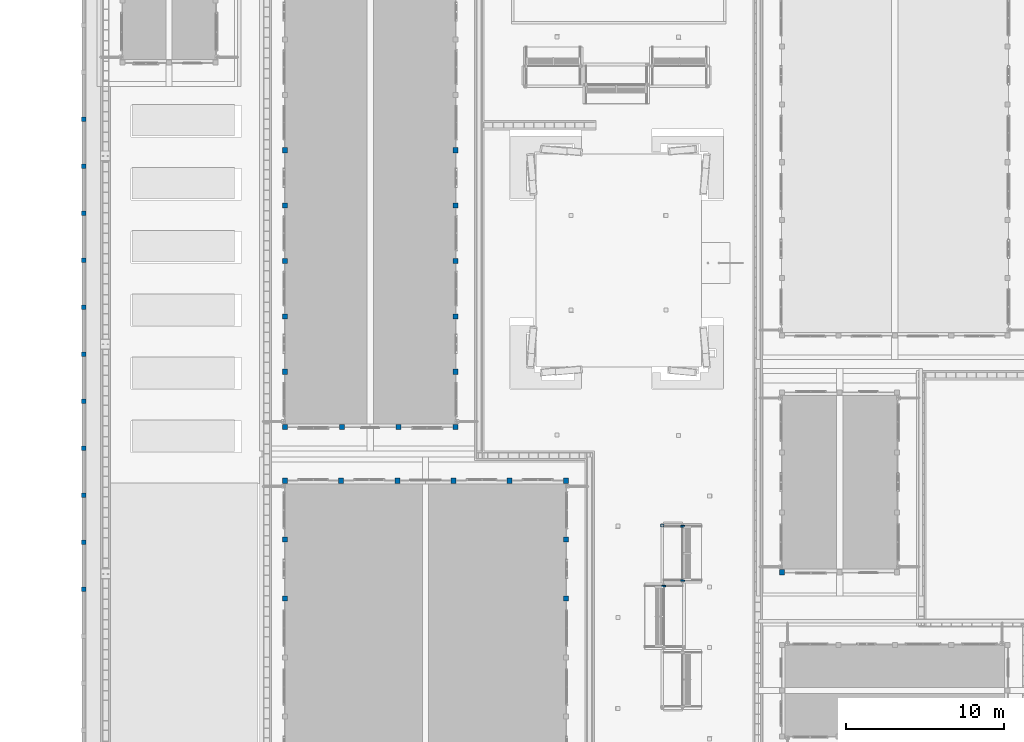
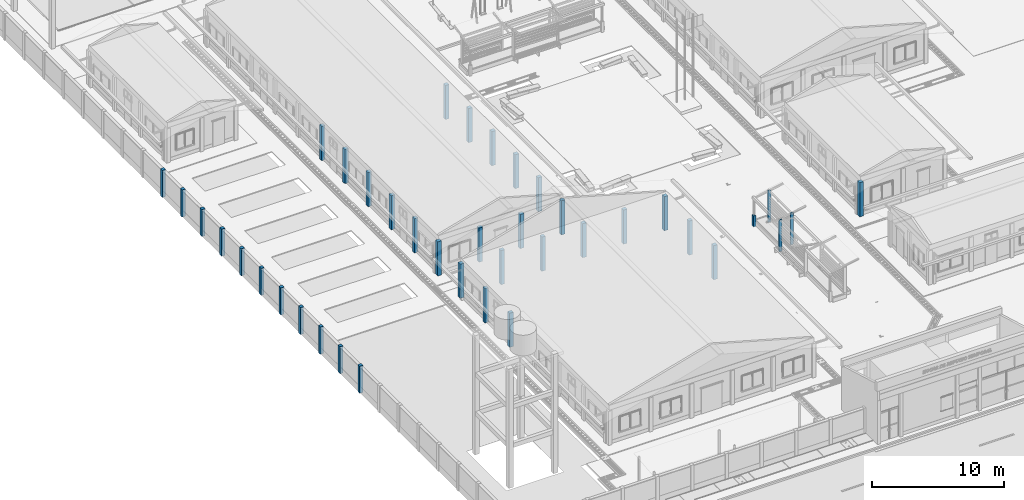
# One storey, part 3 of 151: 45 columns.
"""IFC2X3 building model written with IfcOpenShell, lengths in metres."""

from ifc_helpers import new_model, si_unit, frame, origin, origin_with_axes, place, context, subcontext, project, spatial, faceted_brep, element, save


model = new_model("IFC2X3")

# Units and contexts
model_context = context("Model", 3, precision=1e-05, world=origin_with_axes())
body_context = subcontext(model_context, "Body", "Model", "MODEL_VIEW")
ifc_project = project(units=[si_unit("LENGTHUNIT", "METRE"), si_unit("AREAUNIT", "SQUARE_METRE"), si_unit("VOLUMEUNIT", "CUBIC_METRE"), si_unit("PLANEANGLEUNIT", "RADIAN")], contexts=[model_context])

# Site, building, storey
site_placement = place(None, origin_with_axes())
site = spatial("IfcSite", under=ifc_project, at=site_placement, Name="Predio Los Mangos - Morales, San Martín", CompositionType="ELEMENT")
building_placement = place(site_placement, origin())
building = spatial("IfcBuilding", under=site, at=building_placement, Name="Hogar de Refugio Temporal", CompositionType="ELEMENT")
storey_placement = place(building_placement, origin())
storey = spatial("IfcBuildingStorey", under=building, at=storey_placement, Name="NIVEL 1 (NPT +0.00)", CompositionType="ELEMENT", Elevation=0.0)

# Columns
column_1_placement = place(storey_placement, origin())
element("IfcColumn", 1, at=column_1_placement, inside=storey, Name="E-01_col", ObjectType="Columna", context=body_context, shape_type="Brep", body=[
    faceted_brep([(13.64, 48.54, 0.15), (13.64, 48.86, 0.15), (13.96, 48.86, 0.15), (13.96, 48.54, 0.15), (13.64, 48.54, 3.3), (13.96, 48.54, 3.3), (13.96, 48.86, 3.3), (13.64, 48.86, 3.3)], [[[0, 1, 2, 3]], [[4, 5, 6, 7]], [[0, 3, 5, 4]], [[3, 2, 6, 5]], [[2, 1, 7, 6]], [[1, 0, 4, 7]]]),
])
column_2_placement = place(storey_placement, origin())
element("IfcColumn", 2, at=column_2_placement, inside=storey, Name="E-01_col", ObjectType="Columna", context=body_context, shape_type="Brep", body=[
    faceted_brep([(17.2, 48.54, 0.15), (17.2, 48.86, 0.15), (17.52, 48.86, 0.15), (17.52, 48.54, 0.15), (17.2, 48.54, 3.3), (17.52, 48.54, 3.3), (17.52, 48.86, 3.3), (17.2, 48.86, 3.3)], [[[0, 1, 2, 3]], [[4, 5, 6, 7]], [[0, 3, 5, 4]], [[3, 2, 6, 5]], [[2, 1, 7, 6]], [[1, 0, 4, 7]]]),
])
column_3_placement = place(storey_placement, origin())
element("IfcColumn", 3, at=column_3_placement, inside=storey, Name="E-01_col", ObjectType="Columna", context=body_context, shape_type="Brep", body=[
    faceted_brep([(20.76, 48.54, 0.15), (20.76, 48.86, 0.15), (21.08, 48.86, 0.15), (21.08, 48.54, 0.15), (20.76, 48.54, 3.3), (21.08, 48.54, 3.3), (21.08, 48.86, 3.3), (20.76, 48.86, 3.3)], [[[0, 1, 2, 3]], [[4, 5, 6, 7]], [[0, 3, 5, 4]], [[3, 2, 6, 5]], [[2, 1, 7, 6]], [[1, 0, 4, 7]]]),
])
column_4_placement = place(storey_placement, origin())
element("IfcColumn", 4, at=column_4_placement, inside=storey, Name="E-01_col", ObjectType="Columna", context=body_context, shape_type="Brep", body=[
    faceted_brep([(24.32, 48.54, 0.15), (24.32, 48.86, 0.15), (24.64, 48.86, 0.15), (24.64, 48.54, 0.15), (24.32, 48.54, 3.3), (24.64, 48.54, 3.3), (24.64, 48.86, 3.3), (24.32, 48.86, 3.3)], [[[0, 1, 2, 3]], [[4, 5, 6, 7]], [[0, 3, 5, 4]], [[3, 2, 6, 5]], [[2, 1, 7, 6]], [[1, 0, 4, 7]]]),
])
column_5_placement = place(storey_placement, origin())
element("IfcColumn", 5, at=column_5_placement, inside=storey, Name="E-01_col", ObjectType="Columna", context=body_context, shape_type="Brep", body=[
    faceted_brep([(27.88, 48.54, 0.15), (27.88, 48.86, 0.15), (28.2, 48.86, 0.15), (28.2, 48.54, 0.15), (27.88, 48.54, 3.3), (28.2, 48.54, 3.3), (28.2, 48.86, 3.3), (27.88, 48.86, 3.3)], [[[0, 1, 2, 3]], [[4, 5, 6, 7]], [[0, 3, 5, 4]], [[3, 2, 6, 5]], [[2, 1, 7, 6]], [[1, 0, 4, 7]]]),
])
column_6_placement = place(storey_placement, origin())
element("IfcColumn", 6, at=column_6_placement, inside=storey, Name="E-01_col", ObjectType="Columna", context=body_context, shape_type="Brep", body=[
    faceted_brep([(31.44, 48.54, 0.15), (31.44, 48.86, 0.15), (31.76, 48.86, 0.15), (31.76, 48.54, 0.15), (31.44, 48.54, 3.3), (31.76, 48.54, 3.3), (31.76, 48.86, 3.3), (31.44, 48.86, 3.3)], [[[0, 1, 2, 3]], [[4, 5, 6, 7]], [[0, 3, 5, 4]], [[3, 2, 6, 5]], [[2, 1, 7, 6]], [[1, 0, 4, 7]]]),
])
column_7_placement = place(storey_placement, origin())
element("IfcColumn", 7, at=column_7_placement, inside=storey, Name="E-01_col", ObjectType="Columna", context=body_context, shape_type="Brep", body=[
    faceted_brep([(13.64, 41.0733, 0.15), (13.64, 41.3933, 0.15), (13.96, 41.3933, 0.15), (13.96, 41.0733, 0.15), (13.64, 41.0733, 3.3), (13.96, 41.0733, 3.3), (13.96, 41.3933, 3.3), (13.64, 41.3933, 3.3)], [[[0, 1, 2, 3]], [[4, 5, 6, 7]], [[0, 3, 5, 4]], [[3, 2, 6, 5]], [[2, 1, 7, 6]], [[1, 0, 4, 7]]]),
])
column_8_placement = place(storey_placement, origin())
element("IfcColumn", 8, at=column_8_placement, inside=storey, Name="E-01_col", ObjectType="Columna", context=body_context, shape_type="Brep", body=[
    faceted_brep([(13.64, 44.8067, 0.15), (13.64, 45.1267, 0.15), (13.96, 45.1267, 0.15), (13.96, 44.8067, 0.15), (13.64, 44.8067, 3.3), (13.96, 44.8067, 3.3), (13.96, 45.1267, 3.3), (13.64, 45.1267, 3.3)], [[[0, 1, 2, 3]], [[4, 5, 6, 7]], [[0, 3, 5, 4]], [[3, 2, 6, 5]], [[2, 1, 7, 6]], [[1, 0, 4, 7]]]),
])
column_9_placement = place(storey_placement, origin())
element("IfcColumn", 9, at=column_9_placement, inside=storey, Name="E-01_col", ObjectType="Columna", context=body_context, shape_type="Brep", body=[
    faceted_brep([(13.64, 48.54, 0.15), (13.64, 48.86, 0.15), (13.96, 48.86, 0.15), (13.96, 48.54, 0.15), (13.64, 48.54, 3.3), (13.96, 48.54, 3.3), (13.96, 48.86, 3.3), (13.64, 48.86, 3.3)], [[[0, 1, 2, 3]], [[4, 5, 6, 7]], [[0, 3, 5, 4]], [[3, 2, 6, 5]], [[2, 1, 7, 6]], [[1, 0, 4, 7]]]),
])
column_10_placement = place(storey_placement, origin())
element("IfcColumn", 10, at=column_10_placement, inside=storey, Name="E-01_col", ObjectType="Columna", context=body_context, shape_type="Brep", body=[
    faceted_brep([(31.44, 41.0733, 0.15), (31.44, 41.3933, 0.15), (31.76, 41.3933, 0.15), (31.76, 41.0733, 0.15), (31.44, 41.0733, 3.3), (31.76, 41.0733, 3.3), (31.76, 41.3933, 3.3), (31.44, 41.3933, 3.3)], [[[0, 1, 2, 3]], [[4, 5, 6, 7]], [[0, 3, 5, 4]], [[3, 2, 6, 5]], [[2, 1, 7, 6]], [[1, 0, 4, 7]]]),
])
column_11_placement = place(storey_placement, origin())
element("IfcColumn", 11, at=column_11_placement, inside=storey, Name="E-01_col", ObjectType="Columna", context=body_context, shape_type="Brep", body=[
    faceted_brep([(31.44, 44.8067, 0.15), (31.44, 45.1267, 0.15), (31.76, 45.1267, 0.15), (31.76, 44.8067, 0.15), (31.44, 44.8067, 3.3), (31.76, 44.8067, 3.3), (31.76, 45.1267, 3.3), (31.44, 45.1267, 3.3)], [[[0, 1, 2, 3]], [[4, 5, 6, 7]], [[0, 3, 5, 4]], [[3, 2, 6, 5]], [[2, 1, 7, 6]], [[1, 0, 4, 7]]]),
])
column_12_placement = place(storey_placement, origin())
element("IfcColumn", 12, at=column_12_placement, inside=storey, Name="E-01_col", ObjectType="Columna", context=body_context, shape_type="Brep", body=[
    faceted_brep([(31.44, 48.54, 0.15), (31.44, 48.86, 0.15), (31.76, 48.86, 0.15), (31.76, 48.54, 0.15), (31.44, 48.54, 3.3), (31.76, 48.54, 3.3), (31.76, 48.86, 3.3), (31.44, 48.86, 3.3)], [[[0, 1, 2, 3]], [[4, 5, 6, 7]], [[0, 3, 5, 4]], [[3, 2, 6, 5]], [[2, 1, 7, 6]], [[1, 0, 4, 7]]]),
])
for number, where, name in (
    (13, (0.0, 0.0, 0.0), "E-02_col"),
    (14, (0.0, 0.0, 0.0), "E-02_col"),
):
    element("IfcColumn", number, at=place(storey_placement, frame(where)), inside=storey, Name=name, ObjectType="Columna", context=body_context, shape_type="Brep", body=[
        faceted_brep([(45.14, 42.74, 0.15), (45.14, 43.06, 0.15), (45.46, 43.06, 0.15), (45.46, 42.74, 0.15), (45.14, 42.74, 3.3), (45.46, 42.74, 3.3), (45.46, 43.06, 3.3), (45.14, 43.06, 3.3)], [[[0, 1, 2, 3]], [[4, 5, 6, 7]], [[0, 3, 5, 4]], [[3, 2, 6, 5]], [[2, 1, 7, 6]], [[1, 0, 4, 7]]]),
    ])
column_13_placement = place(storey_placement, origin())
element("IfcColumn", 15, at=column_13_placement, inside=storey, Name="E-04_col", ObjectType="Columna", context=body_context, shape_type="Brep", body=[
    faceted_brep([(13.64, 51.94, 0.15), (13.64, 52.26, 0.15), (13.96, 52.26, 0.15), (13.96, 51.94, 0.15), (13.64, 51.94, 3.3), (13.96, 51.94, 3.3), (13.96, 52.26, 3.3), (13.64, 52.26, 3.3)], [[[0, 1, 2, 3]], [[4, 5, 6, 7]], [[0, 3, 5, 4]], [[3, 2, 6, 5]], [[2, 1, 7, 6]], [[1, 0, 4, 7]]]),
])
column_14_placement = place(storey_placement, origin())
element("IfcColumn", 16, at=column_14_placement, inside=storey, Name="E-04_col", ObjectType="Columna", context=body_context, shape_type="Brep", body=[
    faceted_brep([(17.24, 51.94, 0.15), (17.24, 52.26, 0.15), (17.56, 52.26, 0.15), (17.56, 51.94, 0.15), (17.24, 51.94, 3.3), (17.56, 51.94, 3.3), (17.56, 52.26, 3.3), (17.24, 52.26, 3.3)], [[[0, 1, 2, 3]], [[4, 5, 6, 7]], [[0, 3, 5, 4]], [[3, 2, 6, 5]], [[2, 1, 7, 6]], [[1, 0, 4, 7]]]),
])
column_15_placement = place(storey_placement, origin())
element("IfcColumn", 17, at=column_15_placement, inside=storey, Name="E-04_col", ObjectType="Columna", context=body_context, shape_type="Brep", body=[
    faceted_brep([(20.84, 51.94, 0.15), (20.84, 52.26, 0.15), (21.16, 52.26, 0.15), (21.16, 51.94, 0.15), (20.84, 51.94, 3.3), (21.16, 51.94, 3.3), (21.16, 52.26, 3.3), (20.84, 52.26, 3.3)], [[[0, 1, 2, 3]], [[4, 5, 6, 7]], [[0, 3, 5, 4]], [[3, 2, 6, 5]], [[2, 1, 7, 6]], [[1, 0, 4, 7]]]),
])
column_16_placement = place(storey_placement, origin())
element("IfcColumn", 18, at=column_16_placement, inside=storey, Name="E-04_col", ObjectType="Columna", context=body_context, shape_type="Brep", body=[
    faceted_brep([(24.44, 51.94, 0.15), (24.44, 52.26, 0.15), (24.76, 52.26, 0.15), (24.76, 51.94, 0.15), (24.44, 51.94, 3.3), (24.76, 51.94, 3.3), (24.76, 52.26, 3.3), (24.44, 52.26, 3.3)], [[[0, 1, 2, 3]], [[4, 5, 6, 7]], [[0, 3, 5, 4]], [[3, 2, 6, 5]], [[2, 1, 7, 6]], [[1, 0, 4, 7]]]),
])
column_17_placement = place(storey_placement, origin())
element("IfcColumn", 19, at=column_17_placement, inside=storey, Name="E-04_col", ObjectType="Columna", context=body_context, shape_type="Brep", body=[
    faceted_brep([(13.64, 51.94, 0.15), (13.64, 52.26, 0.15), (13.96, 52.26, 0.15), (13.96, 51.94, 0.15), (13.64, 51.94, 3.3), (13.96, 51.94, 3.3), (13.96, 52.26, 3.3), (13.64, 52.26, 3.3)], [[[0, 1, 2, 3]], [[4, 5, 6, 7]], [[0, 3, 5, 4]], [[3, 2, 6, 5]], [[2, 1, 7, 6]], [[1, 0, 4, 7]]]),
])
column_18_placement = place(storey_placement, origin())
element("IfcColumn", 20, at=column_18_placement, inside=storey, Name="E-04_col", ObjectType="Columna", context=body_context, shape_type="Brep", body=[
    faceted_brep([(13.64, 55.45, 0.15), (13.64, 55.77, 0.15), (13.96, 55.77, 0.15), (13.96, 55.45, 0.15), (13.64, 55.45, 3.3), (13.96, 55.45, 3.3), (13.96, 55.77, 3.3), (13.64, 55.77, 3.3)], [[[0, 1, 2, 3]], [[4, 5, 6, 7]], [[0, 3, 5, 4]], [[3, 2, 6, 5]], [[2, 1, 7, 6]], [[1, 0, 4, 7]]]),
])
column_19_placement = place(storey_placement, origin())
element("IfcColumn", 21, at=column_19_placement, inside=storey, Name="E-04_col", ObjectType="Columna", context=body_context, shape_type="Brep", body=[
    faceted_brep([(13.64, 58.96, 0.15), (13.64, 59.28, 0.15), (13.96, 59.28, 0.15), (13.96, 58.96, 0.15), (13.64, 58.96, 3.3), (13.96, 58.96, 3.3), (13.96, 59.28, 3.3), (13.64, 59.28, 3.3)], [[[0, 1, 2, 3]], [[4, 5, 6, 7]], [[0, 3, 5, 4]], [[3, 2, 6, 5]], [[2, 1, 7, 6]], [[1, 0, 4, 7]]]),
])
column_20_placement = place(storey_placement, origin())
element("IfcColumn", 22, at=column_20_placement, inside=storey, Name="E-04_col", ObjectType="Columna", context=body_context, shape_type="Brep", body=[
    faceted_brep([(13.64, 62.47, 0.15), (13.64, 62.79, 0.15), (13.96, 62.79, 0.15), (13.96, 62.47, 0.15), (13.64, 62.47, 3.3), (13.96, 62.47, 3.3), (13.96, 62.79, 3.3), (13.64, 62.79, 3.3)], [[[0, 1, 2, 3]], [[4, 5, 6, 7]], [[0, 3, 5, 4]], [[3, 2, 6, 5]], [[2, 1, 7, 6]], [[1, 0, 4, 7]]]),
])
column_21_placement = place(storey_placement, origin())
element("IfcColumn", 23, at=column_21_placement, inside=storey, Name="E-04_col", ObjectType="Columna", context=body_context, shape_type="Brep", body=[
    faceted_brep([(13.64, 65.98, 0.15), (13.64, 66.3, 0.15), (13.96, 66.3, 0.15), (13.96, 65.98, 0.15), (13.64, 65.98, 3.3), (13.96, 65.98, 3.3), (13.96, 66.3, 3.3), (13.64, 66.3, 3.3)], [[[0, 1, 2, 3]], [[4, 5, 6, 7]], [[0, 3, 5, 4]], [[3, 2, 6, 5]], [[2, 1, 7, 6]], [[1, 0, 4, 7]]]),
])
column_22_placement = place(storey_placement, origin())
element("IfcColumn", 24, at=column_22_placement, inside=storey, Name="E-04_col", ObjectType="Columna", context=body_context, shape_type="Brep", body=[
    faceted_brep([(13.64, 69.49, 0.15), (13.64, 69.81, 0.15), (13.96, 69.81, 0.15), (13.96, 69.49, 0.15), (13.64, 69.49, 3.3), (13.96, 69.49, 3.3), (13.96, 69.81, 3.3), (13.64, 69.81, 3.3)], [[[0, 1, 2, 3]], [[4, 5, 6, 7]], [[0, 3, 5, 4]], [[3, 2, 6, 5]], [[2, 1, 7, 6]], [[1, 0, 4, 7]]]),
])
column_23_placement = place(storey_placement, origin())
element("IfcColumn", 25, at=column_23_placement, inside=storey, Name="E-04_col", ObjectType="Columna", context=body_context, shape_type="Brep", body=[
    faceted_brep([(24.44, 51.94, 0.15), (24.44, 52.26, 0.15), (24.76, 52.26, 0.15), (24.76, 51.94, 0.15), (24.44, 51.94, 3.3), (24.76, 51.94, 3.3), (24.76, 52.26, 3.3), (24.44, 52.26, 3.3)], [[[0, 1, 2, 3]], [[4, 5, 6, 7]], [[0, 3, 5, 4]], [[3, 2, 6, 5]], [[2, 1, 7, 6]], [[1, 0, 4, 7]]]),
])
column_24_placement = place(storey_placement, origin())
element("IfcColumn", 26, at=column_24_placement, inside=storey, Name="E-04_col", ObjectType="Columna", context=body_context, shape_type="Brep", body=[
    faceted_brep([(24.44, 55.45, 0.15), (24.44, 55.77, 0.15), (24.76, 55.77, 0.15), (24.76, 55.45, 0.15), (24.44, 55.45, 3.3), (24.76, 55.45, 3.3), (24.76, 55.77, 3.3), (24.44, 55.77, 3.3)], [[[0, 1, 2, 3]], [[4, 5, 6, 7]], [[0, 3, 5, 4]], [[3, 2, 6, 5]], [[2, 1, 7, 6]], [[1, 0, 4, 7]]]),
])
column_25_placement = place(storey_placement, origin())
element("IfcColumn", 27, at=column_25_placement, inside=storey, Name="E-04_col", ObjectType="Columna", context=body_context, shape_type="Brep", body=[
    faceted_brep([(24.44, 58.96, 0.15), (24.44, 59.28, 0.15), (24.76, 59.28, 0.15), (24.76, 58.96, 0.15), (24.44, 58.96, 3.3), (24.76, 58.96, 3.3), (24.76, 59.28, 3.3), (24.44, 59.28, 3.3)], [[[0, 1, 2, 3]], [[4, 5, 6, 7]], [[0, 3, 5, 4]], [[3, 2, 6, 5]], [[2, 1, 7, 6]], [[1, 0, 4, 7]]]),
])
column_26_placement = place(storey_placement, origin())
element("IfcColumn", 28, at=column_26_placement, inside=storey, Name="E-04_col", ObjectType="Columna", context=body_context, shape_type="Brep", body=[
    faceted_brep([(24.44, 62.47, 0.15), (24.44, 62.79, 0.15), (24.76, 62.79, 0.15), (24.76, 62.47, 0.15), (24.44, 62.47, 3.3), (24.76, 62.47, 3.3), (24.76, 62.79, 3.3), (24.44, 62.79, 3.3)], [[[0, 1, 2, 3]], [[4, 5, 6, 7]], [[0, 3, 5, 4]], [[3, 2, 6, 5]], [[2, 1, 7, 6]], [[1, 0, 4, 7]]]),
])
column_27_placement = place(storey_placement, origin())
element("IfcColumn", 29, at=column_27_placement, inside=storey, Name="E-04_col", ObjectType="Columna", context=body_context, shape_type="Brep", body=[
    faceted_brep([(24.44, 65.98, 0.15), (24.44, 66.3, 0.15), (24.76, 66.3, 0.15), (24.76, 65.98, 0.15), (24.44, 65.98, 3.3), (24.76, 65.98, 3.3), (24.76, 66.3, 3.3), (24.44, 66.3, 3.3)], [[[0, 1, 2, 3]], [[4, 5, 6, 7]], [[0, 3, 5, 4]], [[3, 2, 6, 5]], [[2, 1, 7, 6]], [[1, 0, 4, 7]]]),
])
column_28_placement = place(storey_placement, origin())
element("IfcColumn", 30, at=column_28_placement, inside=storey, Name="E-04_col", ObjectType="Columna", context=body_context, shape_type="Brep", body=[
    faceted_brep([(24.44, 69.49, 0.15), (24.44, 69.81, 0.15), (24.76, 69.81, 0.15), (24.76, 69.49, 0.15), (24.44, 69.49, 3.3), (24.76, 69.49, 3.3), (24.76, 69.81, 3.3), (24.44, 69.81, 3.3)], [[[0, 1, 2, 3]], [[4, 5, 6, 7]], [[0, 3, 5, 4]], [[3, 2, 6, 5]], [[2, 1, 7, 6]], [[1, 0, 4, 7]]]),
])
column_29_placement = place(storey_placement, origin())
element("IfcColumn", 31, at=column_29_placement, inside=storey, Name="columna_cerco", ObjectType="Columna", context=body_context, shape_type="Brep", body=[
    faceted_brep([(0.91, 71.7658, 0.0), (1.19, 71.7658, 0.0), (1.19, 71.4858, 0.0), (0.91, 71.4858, 0.0), (0.91, 71.7658, 2.5), (0.91, 71.4858, 2.5), (1.19, 71.4858, 2.5), (1.19, 71.7658, 2.5)], [[[0, 1, 2, 3]], [[4, 5, 6, 7]], [[0, 3, 5, 4]], [[3, 2, 6, 5]], [[2, 1, 7, 6]], [[1, 0, 4, 7]]]),
])
column_30_placement = place(storey_placement, origin())
element("IfcColumn", 32, at=column_30_placement, inside=storey, Name="columna_cerco", ObjectType="Columna", context=body_context, shape_type="Brep", body=[
    faceted_brep([(0.91, 68.7866, 0.0), (1.19, 68.7866, 0.0), (1.19, 68.5066, 0.0), (0.91, 68.5066, 0.0), (0.91, 68.7866, 2.5), (0.91, 68.5066, 2.5), (1.19, 68.5066, 2.5), (1.19, 68.7866, 2.5)], [[[0, 1, 2, 3]], [[4, 5, 6, 7]], [[0, 3, 5, 4]], [[3, 2, 6, 5]], [[2, 1, 7, 6]], [[1, 0, 4, 7]]]),
])
column_31_placement = place(storey_placement, origin())
element("IfcColumn", 33, at=column_31_placement, inside=storey, Name="columna_cerco", ObjectType="Columna", context=body_context, shape_type="Brep", body=[
    faceted_brep([(0.91, 65.8074, 0.0), (1.19, 65.8074, 0.0), (1.19, 65.5274, 0.0), (0.91, 65.5274, 0.0), (0.91, 65.8074, 2.5), (0.91, 65.5274, 2.5), (1.19, 65.5274, 2.5), (1.19, 65.8074, 2.5)], [[[0, 1, 2, 3]], [[4, 5, 6, 7]], [[0, 3, 5, 4]], [[3, 2, 6, 5]], [[2, 1, 7, 6]], [[1, 0, 4, 7]]]),
])
column_32_placement = place(storey_placement, origin())
element("IfcColumn", 34, at=column_32_placement, inside=storey, Name="columna_cerco", ObjectType="Columna", context=body_context, shape_type="Brep", body=[
    faceted_brep([(0.91, 62.8282, 0.0), (1.19, 62.8282, 0.0), (1.19, 62.5482, 0.0), (0.91, 62.5482, 0.0), (0.91, 62.8282, 2.5), (0.91, 62.5482, 2.5), (1.19, 62.5482, 2.5), (1.19, 62.8282, 2.5)], [[[0, 1, 2, 3]], [[4, 5, 6, 7]], [[0, 3, 5, 4]], [[3, 2, 6, 5]], [[2, 1, 7, 6]], [[1, 0, 4, 7]]]),
])
column_33_placement = place(storey_placement, origin())
element("IfcColumn", 35, at=column_33_placement, inside=storey, Name="columna_cerco", ObjectType="Columna", context=body_context, shape_type="Brep", body=[
    faceted_brep([(0.91, 59.8489, 0.0), (1.19, 59.8489, 0.0), (1.19, 59.5689, 0.0), (0.91, 59.5689, 0.0), (0.91, 59.8489, 2.5), (0.91, 59.5689, 2.5), (1.19, 59.5689, 2.5), (1.19, 59.8489, 2.5)], [[[0, 1, 2, 3]], [[4, 5, 6, 7]], [[0, 3, 5, 4]], [[3, 2, 6, 5]], [[2, 1, 7, 6]], [[1, 0, 4, 7]]]),
])
column_34_placement = place(storey_placement, origin())
element("IfcColumn", 36, at=column_34_placement, inside=storey, Name="columna_cerco", ObjectType="Columna", context=body_context, shape_type="Brep", body=[
    faceted_brep([(0.91, 56.8697, 0.0), (1.19, 56.8697, 0.0), (1.19, 56.5897, 0.0), (0.91, 56.5897, 0.0), (0.91, 56.8697, 2.5), (0.91, 56.5897, 2.5), (1.19, 56.5897, 2.5), (1.19, 56.8697, 2.5)], [[[0, 1, 2, 3]], [[4, 5, 6, 7]], [[0, 3, 5, 4]], [[3, 2, 6, 5]], [[2, 1, 7, 6]], [[1, 0, 4, 7]]]),
])
column_35_placement = place(storey_placement, origin())
element("IfcColumn", 37, at=column_35_placement, inside=storey, Name="columna_cerco", ObjectType="Columna", context=body_context, shape_type="Brep", body=[
    faceted_brep([(0.91, 53.8905, 0.0), (1.19, 53.8905, 0.0), (1.19, 53.6105, 0.0), (0.91, 53.6105, 0.0), (0.91, 53.8905, 2.5), (0.91, 53.6105, 2.5), (1.19, 53.6105, 2.5), (1.19, 53.8905, 2.5)], [[[0, 1, 2, 3]], [[4, 5, 6, 7]], [[0, 3, 5, 4]], [[3, 2, 6, 5]], [[2, 1, 7, 6]], [[1, 0, 4, 7]]]),
])
column_36_placement = place(storey_placement, origin())
element("IfcColumn", 38, at=column_36_placement, inside=storey, Name="columna_cerco", ObjectType="Columna", context=body_context, shape_type="Brep", body=[
    faceted_brep([(0.91, 50.9113, 0.0), (1.19, 50.9113, 0.0), (1.19, 50.6313, 0.0), (0.91, 50.6313, 0.0), (0.91, 50.9113, 2.5), (0.91, 50.6313, 2.5), (1.19, 50.6313, 2.5), (1.19, 50.9113, 2.5)], [[[0, 1, 2, 3]], [[4, 5, 6, 7]], [[0, 3, 5, 4]], [[3, 2, 6, 5]], [[2, 1, 7, 6]], [[1, 0, 4, 7]]]),
])
column_37_placement = place(storey_placement, origin())
element("IfcColumn", 39, at=column_37_placement, inside=storey, Name="columna_cerco", ObjectType="Columna", context=body_context, shape_type="Brep", body=[
    faceted_brep([(0.91, 47.9321, 0.0), (1.19, 47.9321, 0.0), (1.19, 47.6521, 0.0), (0.91, 47.6521, 0.0), (0.91, 47.9321, 2.5), (0.91, 47.6521, 2.5), (1.19, 47.6521, 2.5), (1.19, 47.9321, 2.5)], [[[0, 1, 2, 3]], [[4, 5, 6, 7]], [[0, 3, 5, 4]], [[3, 2, 6, 5]], [[2, 1, 7, 6]], [[1, 0, 4, 7]]]),
])
column_38_placement = place(storey_placement, origin())
element("IfcColumn", 40, at=column_38_placement, inside=storey, Name="columna_cerco", ObjectType="Columna", context=body_context, shape_type="Brep", body=[
    faceted_brep([(0.91, 44.9529, 0.0), (1.19, 44.9529, 0.0), (1.19, 44.6729, 0.0), (0.91, 44.6729, 0.0), (0.91, 44.9529, 2.5), (0.91, 44.6729, 2.5), (1.19, 44.6729, 2.5), (1.19, 44.9529, 2.5)], [[[0, 1, 2, 3]], [[4, 5, 6, 7]], [[0, 3, 5, 4]], [[3, 2, 6, 5]], [[2, 1, 7, 6]], [[1, 0, 4, 7]]]),
])
column_39_placement = place(storey_placement, origin())
element("IfcColumn", 41, at=column_39_placement, inside=storey, Name="columna_cerco", ObjectType="Columna", context=body_context, shape_type="Brep", body=[
    faceted_brep([(0.91, 41.9737, 0.0), (1.19, 41.9737, 0.0), (1.19, 41.6937, 0.0), (0.91, 41.6937, 0.0), (0.91, 41.9737, 2.5), (0.91, 41.6937, 2.5), (1.19, 41.6937, 2.5), (1.19, 41.9737, 2.5)], [[[0, 1, 2, 3]], [[4, 5, 6, 7]], [[0, 3, 5, 4]], [[3, 2, 6, 5]], [[2, 1, 7, 6]], [[1, 0, 4, 7]]]),
])
column_40_placement = place(storey_placement, origin())
element("IfcColumn", 42, at=column_40_placement, inside=storey, Name="oc01_columna", ObjectType="Columna", context=body_context, shape_type="Brep", body=[
    faceted_brep([(37.925, 41.975, 0.0), (37.675, 41.975, 0.0), (37.675, 42.075, 0.0), (37.925, 42.075, 0.0), (37.925, 41.975, 2.93), (37.925, 42.075, 2.93), (37.675, 42.075, 2.93), (37.675, 41.975, 2.93)], [[[0, 1, 2, 3]], [[4, 5, 6, 7]], [[0, 3, 5, 4]], [[3, 2, 6, 5]], [[2, 1, 7, 6]], [[1, 0, 4, 7]]]),
])
column_41_placement = place(storey_placement, origin())
element("IfcColumn", 43, at=column_41_placement, inside=storey, Name="oc01_columna", ObjectType="Columna", context=body_context, shape_type="Brep", body=[
    faceted_brep([(39.125, 42.335, 0.0), (38.875, 42.335, 0.0), (38.875, 42.435, 0.0), (39.125, 42.435, 0.0), (39.125, 42.335, 2.93), (39.125, 42.435, 2.93), (38.875, 42.435, 2.93), (38.875, 42.335, 2.93)], [[[0, 1, 2, 3]], [[4, 5, 6, 7]], [[0, 3, 5, 4]], [[3, 2, 6, 5]], [[2, 1, 7, 6]], [[1, 0, 4, 7]]]),
])
column_42_placement = place(storey_placement, origin())
element("IfcColumn", 44, at=column_42_placement, inside=storey, Name="oc01_columna", ObjectType="Columna", context=body_context, shape_type="Brep", body=[
    faceted_brep([(39.125, 45.765, 0.0), (38.875, 45.765, 0.0), (38.875, 45.865, 0.0), (39.125, 45.865, 0.0), (39.125, 45.765, 2.93), (39.125, 45.865, 2.93), (38.875, 45.865, 2.93), (38.875, 45.765, 2.93)], [[[0, 1, 2, 3]], [[4, 5, 6, 7]], [[0, 3, 5, 4]], [[3, 2, 6, 5]], [[2, 1, 7, 6]], [[1, 0, 4, 7]]]),
])
column_43_placement = place(storey_placement, origin())
element("IfcColumn", 45, at=column_43_placement, inside=storey, Name="oc01_falsa_columna", ObjectType="Falsa columna", context=body_context, shape_type="Brep", body=[
    faceted_brep([(37.81, 45.755, 0.0), (37.61, 45.755, 0.0), (37.61, 45.955, 0.0), (37.81, 45.955, 0.0), (37.81, 45.755, 1.05), (37.81, 45.955, 1.05), (37.61, 45.955, 1.05), (37.61, 45.755, 1.05)], [[[0, 1, 2, 3]], [[4, 5, 6, 7]], [[0, 3, 5, 4]], [[3, 2, 6, 5]], [[2, 1, 7, 6]], [[1, 0, 4, 7]]]),
])

save(model, "model.ifc")
